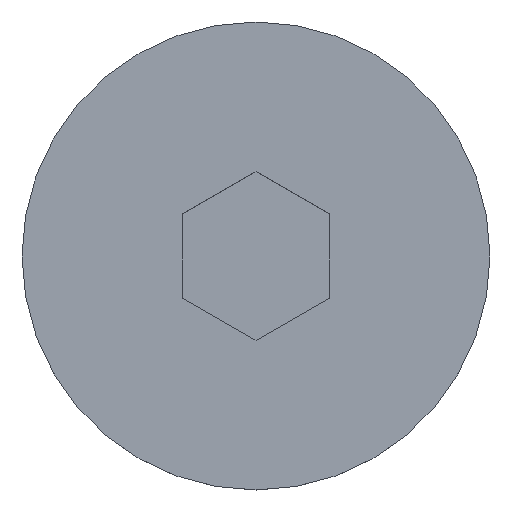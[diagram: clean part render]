
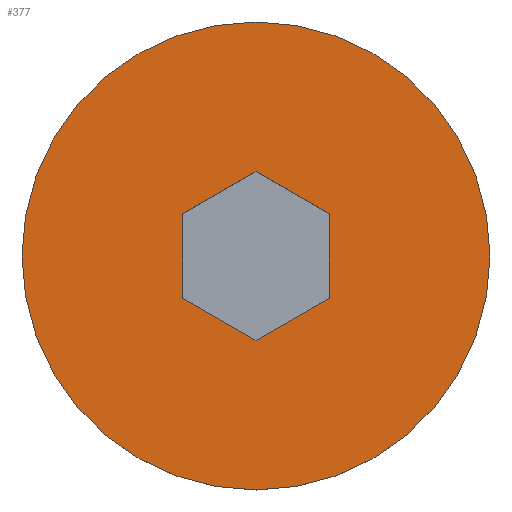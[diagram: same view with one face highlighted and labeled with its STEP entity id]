
A CAD part, top view. The second image highlights one B-rep face of the part: STEP entity #377.
In plain terms, the highlighted planar face has unit normal (0, 0, 1).
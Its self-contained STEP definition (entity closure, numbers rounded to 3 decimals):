
#10 = CARTESIAN_POINT ( 'NONE',  ( 3., -1.732, 5.22 ) ) ;
#11 = EDGE_CURVE ( 'NONE', #114, #152, #407, .T. ) ;
#13 = ORIENTED_EDGE ( 'NONE', *, *, #408, .F. ) ;
#16 = CARTESIAN_POINT ( 'NONE',  ( 0., 0., 5.22 ) ) ;
#20 = VERTEX_POINT ( 'NONE', #246 ) ;
#22 = DIRECTION ( 'NONE',  ( -0.866, 0.5, 0. ) ) ;
#24 = CARTESIAN_POINT ( 'NONE',  ( 9.61, 0., 5.22 ) ) ;
#34 = PLANE ( 'NONE',  #56 ) ;
#36 = DIRECTION ( 'NONE',  ( 0., 0., -1. ) ) ;
#47 = DIRECTION ( 'NONE',  ( 0., 1., 0. ) ) ;
#49 = EDGE_CURVE ( 'NONE', #279, #20, #411, .T. ) ;
#56 = AXIS2_PLACEMENT_3D ( 'NONE', #406, #434, #375 ) ;
#70 = VECTOR ( 'NONE', #237, 1000. ) ;
#72 = VERTEX_POINT ( 'NONE', #254 ) ;
#75 = ORIENTED_EDGE ( 'NONE', *, *, #356, .F. ) ;
#81 = ORIENTED_EDGE ( 'NONE', *, *, #385, .F. ) ;
#82 = ORIENTED_EDGE ( 'NONE', *, *, #49, .F. ) ;
#84 = CIRCLE ( 'NONE', #98, 9.61 ) ;
#97 = CARTESIAN_POINT ( 'NONE',  ( -3., -1.732, 5.22 ) ) ;
#98 = AXIS2_PLACEMENT_3D ( 'NONE', #136, #36, #143 ) ;
#104 = CARTESIAN_POINT ( 'NONE',  ( -3., 1.732, 5.22 ) ) ;
#107 = ORIENTED_EDGE ( 'NONE', *, *, #372, .F. ) ;
#111 = LINE ( 'NONE', #97, #244 ) ;
#114 = VERTEX_POINT ( 'NONE', #10 ) ;
#130 = LINE ( 'NONE', #379, #70 ) ;
#131 = CARTESIAN_POINT ( 'NONE',  ( 3., 1.732, 5.22 ) ) ;
#134 = EDGE_CURVE ( 'NONE', #238, #389, #175, .T. ) ;
#136 = CARTESIAN_POINT ( 'NONE',  ( 0., 0., 5.22 ) ) ;
#143 = DIRECTION ( 'NONE',  ( -1., 0., 0. ) ) ;
#152 = VERTEX_POINT ( 'NONE', #186 ) ;
#153 = DIRECTION ( 'NONE',  ( -0.866, -0.5, 0. ) ) ;
#163 = VERTEX_POINT ( 'NONE', #220 ) ;
#164 = LINE ( 'NONE', #104, #264 ) ;
#173 = ORIENTED_EDGE ( 'NONE', *, *, #11, .F. ) ;
#175 = CIRCLE ( 'NONE', #333, 9.61 ) ;
#186 = CARTESIAN_POINT ( 'NONE',  ( 3., 1.732, 5.22 ) ) ;
#190 = DIRECTION ( 'NONE',  ( 0.866, -0.5, 0. ) ) ;
#212 = CARTESIAN_POINT ( 'NONE',  ( 3., -1.732, 5.22 ) ) ;
#220 = CARTESIAN_POINT ( 'NONE',  ( -3., -1.732, 5.22 ) ) ;
#221 = VECTOR ( 'NONE', #47, 1000. ) ;
#229 = LINE ( 'NONE', #131, #412 ) ;
#231 = DIRECTION ( 'NONE',  ( 0., -1., 0. ) ) ;
#237 = DIRECTION ( 'NONE',  ( 0.866, 0.5, 0. ) ) ;
#238 = VERTEX_POINT ( 'NONE', #24 ) ;
#242 = EDGE_LOOP ( 'NONE', ( #107, #435 ) ) ;
#244 = VECTOR ( 'NONE', #190, 1000. ) ;
#246 = CARTESIAN_POINT ( 'NONE',  ( -3., 1.732, 5.22 ) ) ;
#254 = CARTESIAN_POINT ( 'NONE',  ( 0., -3.464, 5.22 ) ) ;
#264 = VECTOR ( 'NONE', #231, 1000. ) ;
#279 = VERTEX_POINT ( 'NONE', #402 ) ;
#281 = EDGE_CURVE ( 'NONE', #163, #72, #111, .T. ) ;
#300 = CARTESIAN_POINT ( 'NONE',  ( -9.61, 0., 5.22 ) ) ;
#308 = VECTOR ( 'NONE', #153, 1000. ) ;
#319 = CARTESIAN_POINT ( 'NONE',  ( 0., 3.464, 5.22 ) ) ;
#333 = AXIS2_PLACEMENT_3D ( 'NONE', #16, #395, #423 ) ;
#356 = EDGE_CURVE ( 'NONE', #152, #279, #229, .T. ) ;
#359 = FACE_BOUND ( 'NONE', #366, .T. ) ;
#366 = EDGE_LOOP ( 'NONE', ( #75, #173, #13, #381, #81, #82 ) ) ;
#372 = EDGE_CURVE ( 'NONE', #389, #238, #84, .T. ) ;
#375 = DIRECTION ( 'NONE',  ( 1., 0., 0. ) ) ;
#377 = ADVANCED_FACE ( 'NONE', ( #359, #431 ), #34, .T. ) ;
#379 = CARTESIAN_POINT ( 'NONE',  ( 0., -3.464, 5.22 ) ) ;
#381 = ORIENTED_EDGE ( 'NONE', *, *, #281, .F. ) ;
#385 = EDGE_CURVE ( 'NONE', #20, #163, #164, .T. ) ;
#389 = VERTEX_POINT ( 'NONE', #300 ) ;
#395 = DIRECTION ( 'NONE',  ( 0., 0., -1. ) ) ;
#402 = CARTESIAN_POINT ( 'NONE',  ( 0., 3.464, 5.22 ) ) ;
#406 = CARTESIAN_POINT ( 'NONE',  ( -9.61, 0., 5.22 ) ) ;
#407 = LINE ( 'NONE', #212, #221 ) ;
#408 = EDGE_CURVE ( 'NONE', #72, #114, #130, .T. ) ;
#411 = LINE ( 'NONE', #319, #308 ) ;
#412 = VECTOR ( 'NONE', #22, 1000. ) ;
#423 = DIRECTION ( 'NONE',  ( -1., 0., 0. ) ) ;
#431 = FACE_OUTER_BOUND ( 'NONE', #242, .T. ) ;
#434 = DIRECTION ( 'NONE',  ( 0., 0., 1. ) ) ;
#435 = ORIENTED_EDGE ( 'NONE', *, *, #134, .F. ) ;
